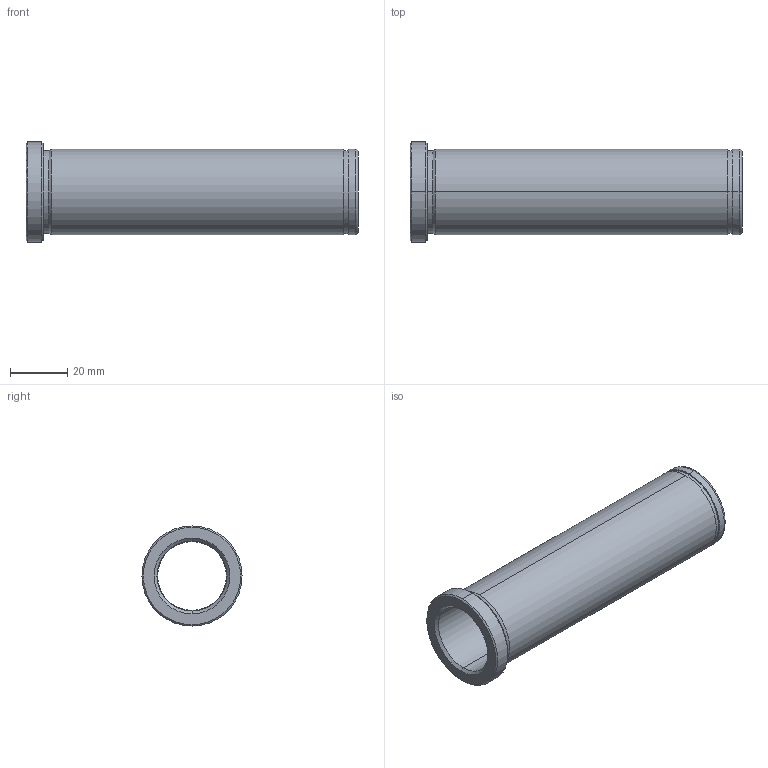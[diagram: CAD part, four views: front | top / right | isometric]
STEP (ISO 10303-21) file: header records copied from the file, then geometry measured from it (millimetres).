
FILE_DESCRIPTION(('CATIA V5 STEP Exchange'),'2;1');
FILE_NAME('C:\Users\Utente\Desktop\IO LAVORO\3D X SITO CF\X SITO\PLASTICA\553\553-24X116.stp','2021-05-25T18:17:16+00:00',('none'),('none'),'CATIA Version 5 Release 20 GA (IN-10)','CATIA V5 STEP AP203','none');
FILE_SCHEMA(('CONFIG_CONTROL_DESIGN'));
Length unit declared in the file: millimetre
Products named in the file (1): 553-24X116
Bounding box: 116 x 35 x 35 mm (x, y, z)
Volume: 29976.9 mm3; surface area: 20796.9 mm2
Topology: 1 solids, 1 shells, 32 faces, 102 edges, 76 vertices
Faces by surface type: cylinder 14, cone 8, plane 6, torus 4
Entity records: 1334 total; most frequent: CARTESIAN_POINT 389, ORIENTED_EDGE 204, DIRECTION 152, EDGE_CURVE 102, AXIS2_PLACEMENT_3D 99, VERTEX_POINT 76, CIRCLE 66, EDGE_LOOP 38
